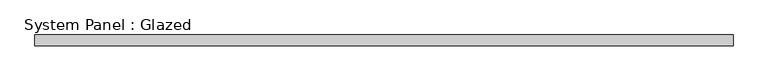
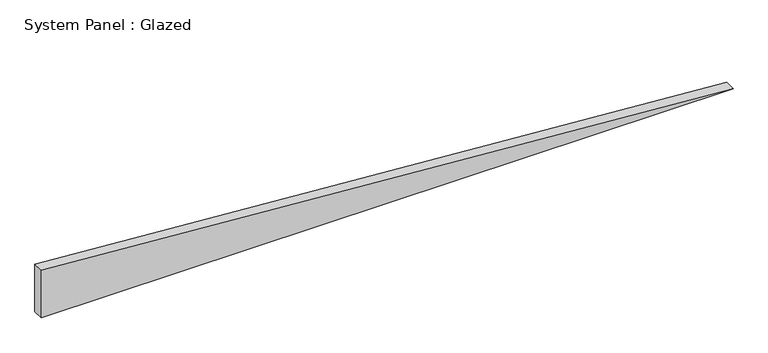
"""IFC4 building model written with IfcOpenShell, lengths in millimetres: plate geometry, System Panel : Glazed."""

from ifc_helpers import new_model, si_unit, frame, origin, place, context, project, spatial, polyline, outline, extrude, source, transform, mapped, element, save


def system_panel_glazed_b5c3a0a0(model_context):
    return source(origin(), model_context, "Body", "SweptSolid", [
        extrude(outline(polyline([(0.0, -805.5757016), (0.0, 805.5757016), (117.1343834, -805.5757016), (0.0, -805.5757016)])), frame((0.0, 19.05, 0.0), z_axis=(0.0, 1.0, 0.0), x_axis=(0.0, 0.0, 1.0)), (0.0, 0.0, 1.0), 25.4),
    ])


if __name__ == "__main__":
    model = new_model("IFC4")
    model_context = context("Model", 3, world=origin())
    ifc_project = project(units=[si_unit("LENGTHUNIT", "METRE", prefix="MILLI")], contexts=[model_context])
    site = spatial("IfcSite", under=ifc_project)
    building = spatial("IfcBuilding", under=site)
    placement = place(None, origin())
    system_panel_glazed_shape = system_panel_glazed_b5c3a0a0(model_context)
    element("IfcPlate", 1, ObjectType="System Panel : Glazed", at=placement, inside=building, context=model_context, shape_type="MappedRepresentation", body=[
        mapped(system_panel_glazed_shape, transform((0.0, 0.0, 0.0), x_axis=(1.0, 0.0, 0.0), y_axis=(0.0, 1.0, 0.0), z_axis=(0.0, 0.0, 1.0))),
    ])
    save(model, "model.ifc")
